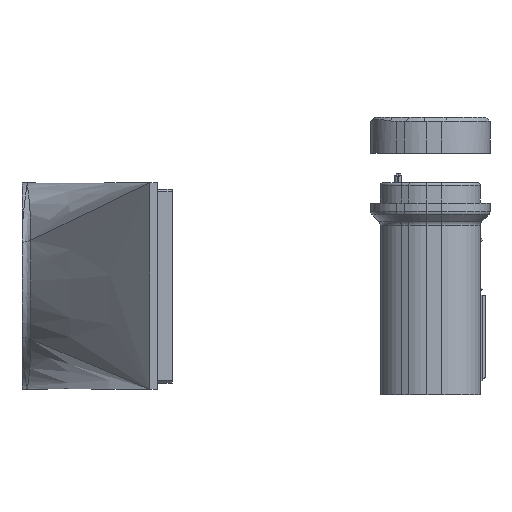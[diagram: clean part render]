
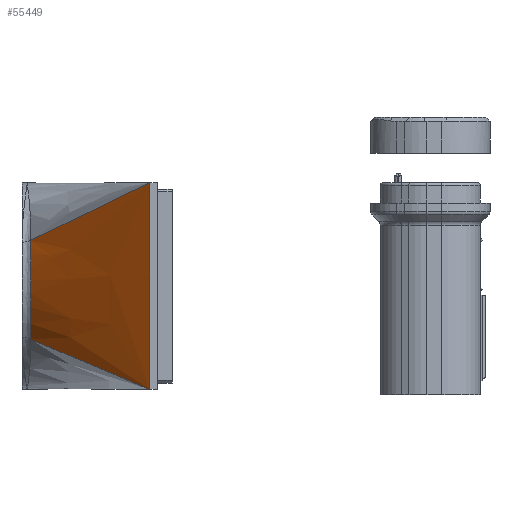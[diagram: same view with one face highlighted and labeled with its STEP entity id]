
A CAD part, front view. The second image highlights one B-rep face of the part: STEP entity #55449.
In plain terms, the highlighted free-form (B-spline) face has degree [3, 3] with [6, 4] control points.
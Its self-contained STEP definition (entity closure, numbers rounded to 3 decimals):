
#86=B_SPLINE_SURFACE_WITH_KNOTS($,3,3,((#84889,#84890,#84891,#84892),(#84893,
#84894,#84895,#84896),(#84897,#84898,#84899,#84900),(#84901,#84902,#84903,
#84904),(#84905,#84906,#84907,#84908),(#84909,#84910,#84911,#84912)),
 .UNSPECIFIED.,.F.,.F.,.F.,(4,1,1,4),(4,4),(0.,0.286,
0.571,1.),(0.029,1.),
 .UNSPECIFIED.);
#432=B_SPLINE_CURVE_WITH_KNOTS($,3,(#83337,#83338,#83339,#83340,#83341,
#83342),.UNSPECIFIED.,.F.,.F.,(4,1,1,4),(0.,1.829,
3.056,4.272),.UNSPECIFIED.);
#2783=FACE_OUTER_BOUND($,#6617,.T.);
#6617=EDGE_LOOP($,(#39304,#39305,#39306,#39307));
#11411=LINE($,#83396,#18060);
#11421=LINE($,#84583,#18070);
#11423=LINE($,#84913,#18072);
#18060=VECTOR($,#66108,7.403);
#18070=VECTOR($,#66152,7.375);
#18072=VECTOR($,#66160,8.051);
#24281=VERTEX_POINT($,#83334);
#24282=VERTEX_POINT($,#83336);
#24285=VERTEX_POINT($,#83394);
#24313=VERTEX_POINT($,#84582);
#29329=EDGE_CURVE($,#24281,#24282,#432,.T.);
#29335=EDGE_CURVE($,#24281,#24285,#11411,.T.);
#29376=EDGE_CURVE($,#24282,#24313,#11421,.T.);
#29392=EDGE_CURVE($,#24285,#24313,#11423,.T.);
#39304=ORIENTED_EDGE($,*,*,#29329,.F.);
#39305=ORIENTED_EDGE($,*,*,#29335,.T.);
#39306=ORIENTED_EDGE($,*,*,#29392,.T.);
#39307=ORIENTED_EDGE($,*,*,#29376,.F.);
#55449=ADVANCED_FACE($,(#2783),#86,.F.);
#66108=DIRECTION($,(0.626,-0.734,-0.264));
#66152=DIRECTION($,(0.628,-0.716,0.305));
#66160=DIRECTION($,(0.,0.,1.));
#83334=CARTESIAN_POINT('',(-22.989,13.256,3.801));
#83336=CARTESIAN_POINT('',(-22.989,13.101,7.653));
#83337=CARTESIAN_POINT('Ctrl Pts',(-22.989,13.256,3.801));
#83338=CARTESIAN_POINT('Ctrl Pts',(-22.989,12.985,4.304));
#83339=CARTESIAN_POINT('Ctrl Pts',(-22.992,12.703,5.23));
#83340=CARTESIAN_POINT('Ctrl Pts',(-22.991,12.736,6.568));
#83341=CARTESIAN_POINT('Ctrl Pts',(-22.99,12.949,7.305));
#83342=CARTESIAN_POINT('Ctrl Pts',(-22.989,13.101,7.653));
#83394=CARTESIAN_POINT('',(-18.356,7.822,1.85));
#83396=CARTESIAN_POINT($,(-22.989,13.256,3.801));
#84582=CARTESIAN_POINT('',(-18.356,7.822,9.901));
#84583=CARTESIAN_POINT($,(-22.989,13.101,7.653));
#84889=CARTESIAN_POINT('Ctrl Pts',(-22.991,13.26,3.802));
#84890=CARTESIAN_POINT('Ctrl Pts',(-21.446,11.447,3.152));
#84891=CARTESIAN_POINT('Ctrl Pts',(-19.901,9.634,2.501));
#84892=CARTESIAN_POINT('Ctrl Pts',(-18.356,7.822,1.85));
#84893=CARTESIAN_POINT('Ctrl Pts',(-22.991,13.08,4.135));
#84894=CARTESIAN_POINT('Ctrl Pts',(-21.446,11.327,3.629));
#84895=CARTESIAN_POINT('Ctrl Pts',(-19.901,9.574,3.123));
#84896=CARTESIAN_POINT('Ctrl Pts',(-18.356,7.822,2.617));
#84897=CARTESIAN_POINT('Ctrl Pts',(-22.991,12.806,4.849));
#84898=CARTESIAN_POINT('Ctrl Pts',(-21.446,11.145,4.616));
#84899=CARTESIAN_POINT('Ctrl Pts',(-19.901,9.483,4.383));
#84900=CARTESIAN_POINT('Ctrl Pts',(-18.356,7.822,4.15));
#84901=CARTESIAN_POINT('Ctrl Pts',(-22.991,12.664,6.186));
#84902=CARTESIAN_POINT('Ctrl Pts',(-21.446,11.05,6.402));
#84903=CARTESIAN_POINT('Ctrl Pts',(-19.901,9.436,6.618));
#84904=CARTESIAN_POINT('Ctrl Pts',(-18.356,7.822,6.834));
#84905=CARTESIAN_POINT('Ctrl Pts',(-22.991,12.875,7.132));
#84906=CARTESIAN_POINT('Ctrl Pts',(-21.446,11.191,7.672));
#84907=CARTESIAN_POINT('Ctrl Pts',(-19.901,9.506,8.212));
#84908=CARTESIAN_POINT('Ctrl Pts',(-18.356,7.822,8.751));
#84909=CARTESIAN_POINT('Ctrl Pts',(-22.991,13.104,7.652));
#84910=CARTESIAN_POINT('Ctrl Pts',(-21.446,11.343,8.402));
#84911=CARTESIAN_POINT('Ctrl Pts',(-19.901,9.583,9.152));
#84912=CARTESIAN_POINT('Ctrl Pts',(-18.356,7.822,9.901));
#84913=CARTESIAN_POINT($,(-18.356,7.822,1.85));
